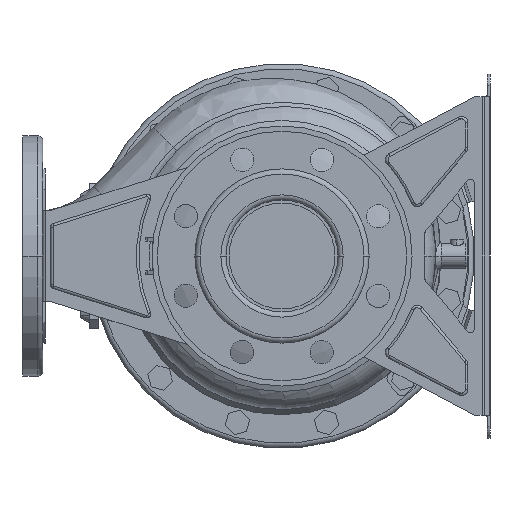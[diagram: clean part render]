
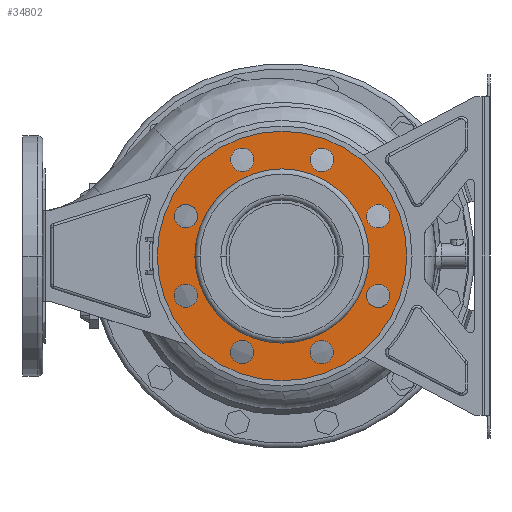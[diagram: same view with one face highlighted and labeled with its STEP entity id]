
A CAD part, front view. The second image highlights one B-rep face of the part: STEP entity #34802.
In plain terms, the highlighted planar face has unit normal (0, -1, 0) as drawn and (-1, 0, 0) by its records, which use the part's own axes.
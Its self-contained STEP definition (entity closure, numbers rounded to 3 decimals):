
#33935=CARTESIAN_POINT('',(14.,0.,0.));
#33936=DIRECTION('',(-1.,0.,0.));
#33937=DIRECTION('',(0.,1.,0.));
#33938=AXIS2_PLACEMENT_3D('',#33935,#33936,#33937);
#33943=CARTESIAN_POINT('',(14.,0.,0.));
#33944=DIRECTION('',(1.,0.,0.));
#33945=DIRECTION('',(0.,1.,0.));
#33946=AXIS2_PLACEMENT_3D('',#33943,#33944,#33945);
#33951=CARTESIAN_POINT('',(14.,-73.91,30.615));
#33952=DIRECTION('',(1.,0.,0.));
#33953=DIRECTION('',(0.,1.,0.));
#33954=AXIS2_PLACEMENT_3D('',#33951,#33952,#33953);
#33959=CARTESIAN_POINT('',(14.,-73.91,30.615));
#33960=DIRECTION('',(1.,0.,0.));
#33961=DIRECTION('',(0.,-1.,0.));
#33962=AXIS2_PLACEMENT_3D('',#33959,#33960,#33961);
#33967=CARTESIAN_POINT('',(14.,-73.91,-30.615));
#33968=DIRECTION('',(1.,0.,0.));
#33969=DIRECTION('',(0.,0.707,0.707));
#33970=AXIS2_PLACEMENT_3D('',#33967,#33968,#33969);
#33975=CARTESIAN_POINT('',(14.,-73.91,-30.615));
#33976=DIRECTION('',(1.,0.,0.));
#33977=DIRECTION('',(0.,-0.707,-0.707));
#33978=AXIS2_PLACEMENT_3D('',#33975,#33976,#33977);
#33983=CARTESIAN_POINT('',(14.,-30.615,-73.91));
#33984=DIRECTION('',(1.,0.,0.));
#33985=DIRECTION('',(0.,0.,1.));
#33986=AXIS2_PLACEMENT_3D('',#33983,#33984,#33985);
#33991=CARTESIAN_POINT('',(14.,-30.615,-73.91));
#33992=DIRECTION('',(1.,0.,0.));
#33993=DIRECTION('',(0.,0.,-1.));
#33994=AXIS2_PLACEMENT_3D('',#33991,#33992,#33993);
#33999=CARTESIAN_POINT('',(14.,30.615,-73.91));
#34000=DIRECTION('',(1.,0.,0.));
#34001=DIRECTION('',(0.,-0.707,0.707));
#34002=AXIS2_PLACEMENT_3D('',#33999,#34000,#34001);
#34007=CARTESIAN_POINT('',(14.,30.615,-73.91));
#34008=DIRECTION('',(1.,0.,0.));
#34009=DIRECTION('',(0.,0.707,-0.707));
#34010=AXIS2_PLACEMENT_3D('',#34007,#34008,#34009);
#34015=CARTESIAN_POINT('',(14.,73.91,-30.615));
#34016=DIRECTION('',(1.,0.,0.));
#34017=DIRECTION('',(0.,-1.,0.));
#34018=AXIS2_PLACEMENT_3D('',#34015,#34016,#34017);
#34023=CARTESIAN_POINT('',(14.,73.91,-30.615));
#34024=DIRECTION('',(1.,0.,0.));
#34025=DIRECTION('',(0.,1.,0.));
#34026=AXIS2_PLACEMENT_3D('',#34023,#34024,#34025);
#34031=CARTESIAN_POINT('',(14.,73.91,30.615));
#34032=DIRECTION('',(1.,0.,0.));
#34033=DIRECTION('',(0.,-0.707,-0.707));
#34034=AXIS2_PLACEMENT_3D('',#34031,#34032,#34033);
#34039=CARTESIAN_POINT('',(14.,73.91,30.615));
#34040=DIRECTION('',(1.,0.,0.));
#34041=DIRECTION('',(0.,0.707,0.707));
#34042=AXIS2_PLACEMENT_3D('',#34039,#34040,#34041);
#34047=CARTESIAN_POINT('',(14.,30.615,73.91));
#34048=DIRECTION('',(1.,0.,0.));
#34049=DIRECTION('',(0.,0.,-1.));
#34050=AXIS2_PLACEMENT_3D('',#34047,#34048,#34049);
#34055=CARTESIAN_POINT('',(14.,30.615,73.91));
#34056=DIRECTION('',(1.,0.,0.));
#34057=DIRECTION('',(0.,0.,1.));
#34058=AXIS2_PLACEMENT_3D('',#34055,#34056,#34057);
#34063=CARTESIAN_POINT('',(14.,-30.615,73.91));
#34064=DIRECTION('',(1.,0.,0.));
#34065=DIRECTION('',(0.,0.707,-0.707));
#34066=AXIS2_PLACEMENT_3D('',#34063,#34064,#34065);
#34071=CARTESIAN_POINT('',(14.,-30.615,73.91));
#34072=DIRECTION('',(1.,0.,0.));
#34073=DIRECTION('',(0.,-0.707,0.707));
#34074=AXIS2_PLACEMENT_3D('',#34071,#34072,#34073);
#34079=CARTESIAN_POINT('',(14.,0.,0.));
#34080=DIRECTION('',(1.,0.,0.));
#34081=DIRECTION('',(0.,1.,0.));
#34082=AXIS2_PLACEMENT_3D('',#34079,#34080,#34081);
#34101=CARTESIAN_POINT('',(14.,0.,0.));
#34102=DIRECTION('',(-1.,0.,0.));
#34103=DIRECTION('',(0.,1.,0.));
#34104=AXIS2_PLACEMENT_3D('',#34101,#34102,#34103);
#34322=CARTESIAN_POINT('',(14.,96.,0.));
#34324=VERTEX_POINT('',#34322);
#34325=CARTESIAN_POINT('',(14.,67.,0.));
#34327=VERTEX_POINT('',#34325);
#34354=CARTESIAN_POINT('',(14.,-96.,0.));
#34356=VERTEX_POINT('',#34354);
#34357=CARTESIAN_POINT('',(14.,-67.,0.));
#34359=VERTEX_POINT('',#34357);
#34369=CARTESIAN_POINT('',(14.,-64.91,30.615));
#34370=CARTESIAN_POINT('',(14.,-82.91,30.615));
#34371=VERTEX_POINT('',#34369);
#34372=VERTEX_POINT('',#34370);
#34377=CARTESIAN_POINT('',(14.,-67.546,-24.251));
#34378=CARTESIAN_POINT('',(14.,-80.274,-36.979));
#34379=VERTEX_POINT('',#34377);
#34380=VERTEX_POINT('',#34378);
#34385=CARTESIAN_POINT('',(14.,-30.615,-64.91));
#34386=CARTESIAN_POINT('',(14.,-30.615,-82.91));
#34387=VERTEX_POINT('',#34385);
#34388=VERTEX_POINT('',#34386);
#34393=CARTESIAN_POINT('',(14.,24.251,-67.546));
#34394=CARTESIAN_POINT('',(14.,36.979,-80.274));
#34395=VERTEX_POINT('',#34393);
#34396=VERTEX_POINT('',#34394);
#34401=CARTESIAN_POINT('',(14.,64.91,-30.615));
#34402=CARTESIAN_POINT('',(14.,82.91,-30.615));
#34403=VERTEX_POINT('',#34401);
#34404=VERTEX_POINT('',#34402);
#34409=CARTESIAN_POINT('',(14.,67.546,24.251));
#34410=CARTESIAN_POINT('',(14.,80.274,36.979));
#34411=VERTEX_POINT('',#34409);
#34412=VERTEX_POINT('',#34410);
#34417=CARTESIAN_POINT('',(14.,30.615,64.91));
#34418=CARTESIAN_POINT('',(14.,30.615,82.91));
#34419=VERTEX_POINT('',#34417);
#34420=VERTEX_POINT('',#34418);
#34425=CARTESIAN_POINT('',(14.,-24.251,67.546));
#34426=CARTESIAN_POINT('',(14.,-36.979,80.274));
#34427=VERTEX_POINT('',#34425);
#34428=VERTEX_POINT('',#34426);
#34739=CARTESIAN_POINT('',(14.,0.,0.));
#34740=DIRECTION('',(1.,0.,0.));
#34741=DIRECTION('',(0.,-1.,0.));
#34742=AXIS2_PLACEMENT_3D('',#34739,#34740,#34741);
#34743=PLANE('',#34742);
#34744=ORIENTED_EDGE('',*,*,#34732,.F.);
#34745=ORIENTED_EDGE('',*,*,#34721,.T.);
#34746=EDGE_LOOP('',(#34744,#34745));
#34747=FACE_OUTER_BOUND('',#34746,.F.);
#34749=ORIENTED_EDGE('',*,*,#34748,.F.);
#34751=ORIENTED_EDGE('',*,*,#34750,.T.);
#34752=EDGE_LOOP('',(#34749,#34751));
#34753=FACE_BOUND('',#34752,.F.);
#34755=ORIENTED_EDGE('',*,*,#34754,.F.);
#34757=ORIENTED_EDGE('',*,*,#34756,.F.);
#34758=EDGE_LOOP('',(#34755,#34757));
#34759=FACE_BOUND('',#34758,.F.);
#34761=ORIENTED_EDGE('',*,*,#34760,.F.);
#34763=ORIENTED_EDGE('',*,*,#34762,.F.);
#34764=EDGE_LOOP('',(#34761,#34763));
#34765=FACE_BOUND('',#34764,.F.);
#34767=ORIENTED_EDGE('',*,*,#34766,.F.);
#34769=ORIENTED_EDGE('',*,*,#34768,.F.);
#34770=EDGE_LOOP('',(#34767,#34769));
#34771=FACE_BOUND('',#34770,.F.);
#34773=ORIENTED_EDGE('',*,*,#34772,.F.);
#34775=ORIENTED_EDGE('',*,*,#34774,.F.);
#34776=EDGE_LOOP('',(#34773,#34775));
#34777=FACE_BOUND('',#34776,.F.);
#34779=ORIENTED_EDGE('',*,*,#34778,.F.);
#34781=ORIENTED_EDGE('',*,*,#34780,.F.);
#34782=EDGE_LOOP('',(#34779,#34781));
#34783=FACE_BOUND('',#34782,.F.);
#34785=ORIENTED_EDGE('',*,*,#34784,.F.);
#34787=ORIENTED_EDGE('',*,*,#34786,.F.);
#34788=EDGE_LOOP('',(#34785,#34787));
#34789=FACE_BOUND('',#34788,.F.);
#34791=ORIENTED_EDGE('',*,*,#34790,.F.);
#34793=ORIENTED_EDGE('',*,*,#34792,.F.);
#34794=EDGE_LOOP('',(#34791,#34793));
#34795=FACE_BOUND('',#34794,.F.);
#34797=ORIENTED_EDGE('',*,*,#34796,.F.);
#34799=ORIENTED_EDGE('',*,*,#34798,.F.);
#34800=EDGE_LOOP('',(#34797,#34799));
#34801=FACE_BOUND('',#34800,.F.);
#33939=CIRCLE('',#33938,96.);
#33947=CIRCLE('',#33946,96.);
#33955=CIRCLE('',#33954,9.);
#33963=CIRCLE('',#33962,9.);
#33971=CIRCLE('',#33970,9.);
#33979=CIRCLE('',#33978,9.);
#33987=CIRCLE('',#33986,9.);
#33995=CIRCLE('',#33994,9.);
#34003=CIRCLE('',#34002,9.);
#34011=CIRCLE('',#34010,9.);
#34019=CIRCLE('',#34018,9.);
#34027=CIRCLE('',#34026,9.);
#34035=CIRCLE('',#34034,9.);
#34043=CIRCLE('',#34042,9.);
#34051=CIRCLE('',#34050,9.);
#34059=CIRCLE('',#34058,9.);
#34067=CIRCLE('',#34066,9.);
#34075=CIRCLE('',#34074,9.);
#34083=CIRCLE('',#34082,67.);
#34105=CIRCLE('',#34104,67.);
#34721=EDGE_CURVE('',#34324,#34356,#33947,.T.);
#34732=EDGE_CURVE('',#34324,#34356,#33939,.T.);
#34748=EDGE_CURVE('',#34327,#34359,#34083,.T.);
#34750=EDGE_CURVE('',#34327,#34359,#34105,.T.);
#34754=EDGE_CURVE('',#34371,#34372,#33955,.T.);
#34756=EDGE_CURVE('',#34372,#34371,#33963,.T.);
#34760=EDGE_CURVE('',#34379,#34380,#33971,.T.);
#34762=EDGE_CURVE('',#34380,#34379,#33979,.T.);
#34766=EDGE_CURVE('',#34387,#34388,#33987,.T.);
#34768=EDGE_CURVE('',#34388,#34387,#33995,.T.);
#34772=EDGE_CURVE('',#34395,#34396,#34003,.T.);
#34774=EDGE_CURVE('',#34396,#34395,#34011,.T.);
#34778=EDGE_CURVE('',#34403,#34404,#34019,.T.);
#34780=EDGE_CURVE('',#34404,#34403,#34027,.T.);
#34784=EDGE_CURVE('',#34411,#34412,#34035,.T.);
#34786=EDGE_CURVE('',#34412,#34411,#34043,.T.);
#34790=EDGE_CURVE('',#34419,#34420,#34051,.T.);
#34792=EDGE_CURVE('',#34420,#34419,#34059,.T.);
#34796=EDGE_CURVE('',#34427,#34428,#34067,.T.);
#34798=EDGE_CURVE('',#34428,#34427,#34075,.T.);
#34802=ADVANCED_FACE('',(#34747,#34753,#34759,#34765,#34771,#34777,#34783,
#34789,#34795,#34801),#34743,.F.);
